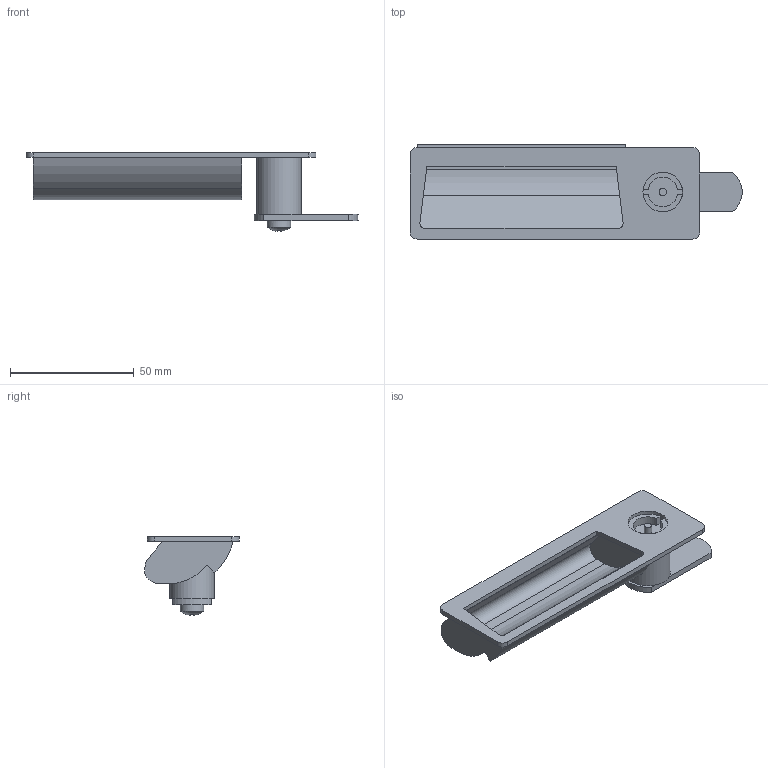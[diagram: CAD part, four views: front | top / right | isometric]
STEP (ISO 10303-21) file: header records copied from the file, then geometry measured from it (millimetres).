
FILE_DESCRIPTION( ( 'STEP AP203' ), '1' );
FILE_NAME( 'C:/Temp/Ganter_Step_05_03_2020/data/3_3/gn731_5/gn731_5_2/Latche with gripping tray GN 731.5-VDE-0-32-2-SG (0-23).stp', '2020-03-12T11:49:37', ( 'License CC BY-ND 4.0' ), ( 'CADENAS' ), ' ', 'PARTsolutions', ' ' );
FILE_SCHEMA( ( 'CONFIG_CONTROL_DESIGN' ) );
Length unit declared in the file: millimetre
Products named in the file (3): Latche with gripping tray GN 731.5-VDE-0-32-2-SG (0-23); _Latche with gripping tray GN 731.5-VDE-0-32-2-SG (0)_1; _Latche with gripping tray GN 731.5-VDE-0-32-2-SG (0-23)_2
Assembly tree (2 placements, depth 2):
  Latche with gripping tray GN 731.5-VDE-0-32-2-SG (0-23)
    _Latche with gripping tray GN 731.5-VDE-0-32-2-SG (0)_1
    _Latche with gripping tray GN 731.5-VDE-0-32-2-SG (0-23)_2
Bounding box: 133.96 x 38 x 31.88 mm (x, y, z)
Volume: 23903.2 mm3; surface area: 19868.3 mm2
Topology: 2 solids, 2 shells, 90 faces, 230 edges, 150 vertices
Faces by surface type: plane 66, cylinder 23, sphere 1
Full cylindrical faces by diameter (mm): 3 x1, 9.5 x1, 16 x1, 18 x1
Entity records: 2775 total; most frequent: DIRECTION 477, CARTESIAN_POINT 460, ORIENTED_EDGE 442, EDGE_CURVE 221, AXIS2_PLACEMENT_3D 163, LINE 151, VECTOR 151, VERTEX_POINT 146
